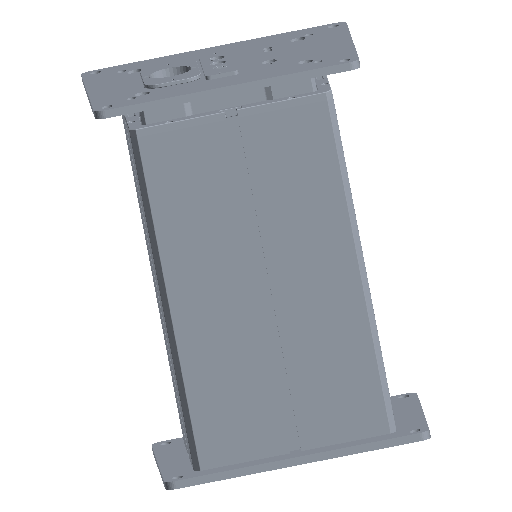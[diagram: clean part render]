
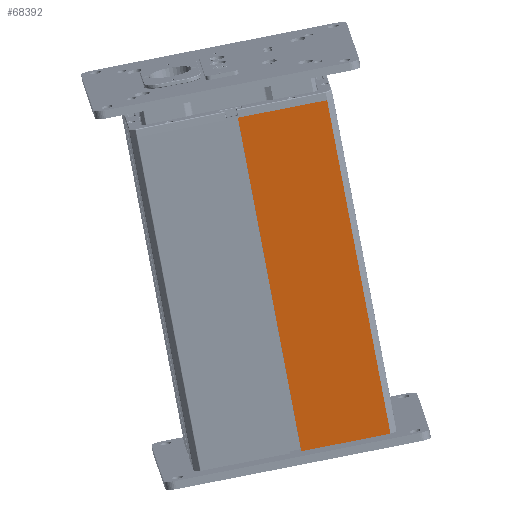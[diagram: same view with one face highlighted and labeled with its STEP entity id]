
A CAD part, front view. The second image highlights one B-rep face of the part: STEP entity #68392.
In plain terms, the highlighted planar face has unit normal (0.066, -0.979, -0.193) as drawn and (-1, 0, 0) by its records, which use the part's own axes.
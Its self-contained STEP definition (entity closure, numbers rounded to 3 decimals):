
#3096 = VECTOR ( 'NONE', #199896, 1000. ) ;
#6304 = EDGE_CURVE ( 'NONE', #100074, #25436, #196139, .T. ) ;
#11522 = LINE ( 'NONE', #113326, #51585 ) ;
#18440 = AXIS2_PLACEMENT_3D ( 'NONE', #40879, #212456, #109713 ) ;
#19823 = ORIENTED_EDGE ( 'NONE', *, *, #6304, .T. ) ;
#20215 = VERTEX_POINT ( 'NONE', #44724 ) ;
#23631 = FACE_OUTER_BOUND ( 'NONE', #130037, .T. ) ;
#25436 = VERTEX_POINT ( 'NONE', #142658 ) ;
#28341 = CARTESIAN_POINT ( 'NONE',  ( -74.2, 0., 98.2 ) ) ;
#32646 = CARTESIAN_POINT ( 'NONE',  ( -74.2, 329., -5.5 ) ) ;
#40879 = CARTESIAN_POINT ( 'NONE',  ( -74.2, 329., 98.2 ) ) ;
#44724 = CARTESIAN_POINT ( 'NONE',  ( -74.2, 329., -91.786 ) ) ;
#48390 = DIRECTION ( 'NONE',  ( 0., -1., 0. ) ) ;
#51585 = VECTOR ( 'NONE', #96035, 1000. ) ;
#68392 = ADVANCED_FACE ( 'NONE', ( #23631 ), #92465, .F. ) ;
#79213 = VECTOR ( 'NONE', #190763, 1000. ) ;
#82300 = VERTEX_POINT ( 'NONE', #32646 ) ;
#89928 = LINE ( 'NONE', #173476, #79213 ) ;
#92465 = PLANE ( 'NONE',  #18440 ) ;
#96035 = DIRECTION ( 'NONE',  ( 0., 0., 1. ) ) ;
#99842 = ORIENTED_EDGE ( 'NONE', *, *, #137850, .F. ) ;
#100074 = VERTEX_POINT ( 'NONE', #134999 ) ;
#109713 = DIRECTION ( 'NONE',  ( 0., 0., -1. ) ) ;
#113326 = CARTESIAN_POINT ( 'NONE',  ( -74.2, 329., 98.2 ) ) ;
#128319 = EDGE_CURVE ( 'NONE', #25436, #82300, #89928, .T. ) ;
#130037 = EDGE_LOOP ( 'NONE', ( #99842, #171793, #19823, #209797 ) ) ;
#133763 = CARTESIAN_POINT ( 'NONE',  ( -74.2, 0., -91.786 ) ) ;
#134999 = CARTESIAN_POINT ( 'NONE',  ( -74.2, 0., -91.786 ) ) ;
#137850 = EDGE_CURVE ( 'NONE', #20215, #82300, #11522, .T. ) ;
#142658 = CARTESIAN_POINT ( 'NONE',  ( -74.2, 0., -5.5 ) ) ;
#163895 = VECTOR ( 'NONE', #48390, 1000. ) ;
#169232 = LINE ( 'NONE', #133763, #163895 ) ;
#171793 = ORIENTED_EDGE ( 'NONE', *, *, #179758, .T. ) ;
#173476 = CARTESIAN_POINT ( 'NONE',  ( -74.2, 329., -5.5 ) ) ;
#179758 = EDGE_CURVE ( 'NONE', #20215, #100074, #169232, .T. ) ;
#190763 = DIRECTION ( 'NONE',  ( 0., 1., 0. ) ) ;
#196139 = LINE ( 'NONE', #28341, #3096 ) ;
#199896 = DIRECTION ( 'NONE',  ( 0., 0., 1. ) ) ;
#209797 = ORIENTED_EDGE ( 'NONE', *, *, #128319, .T. ) ;
#212456 = DIRECTION ( 'NONE',  ( 1., 0., 0. ) ) ;
